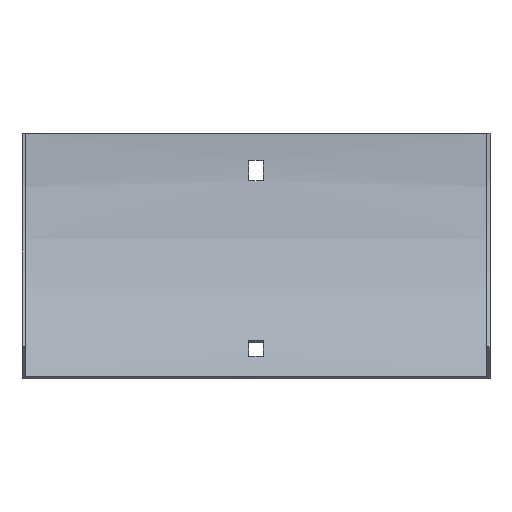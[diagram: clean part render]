
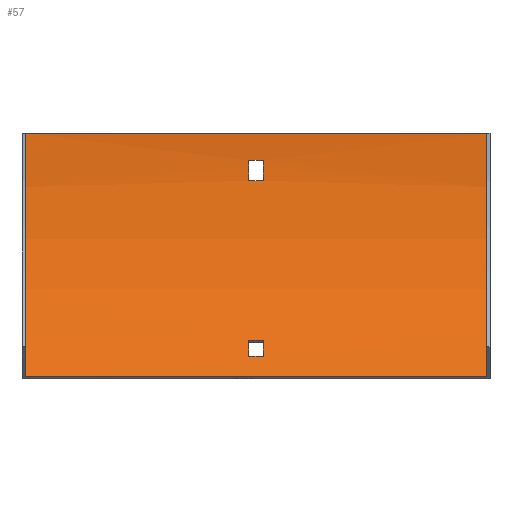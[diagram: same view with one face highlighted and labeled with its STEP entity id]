
A CAD part, front view. The second image highlights one B-rep face of the part: STEP entity #57.
In plain terms, the highlighted cylindrical face has radius 152 mm (diameter 304 mm), a partial arc.
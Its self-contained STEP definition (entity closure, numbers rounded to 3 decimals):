
#6 = VERTEX_POINT ( 'NONE', #529 ) ;
#13 = LINE ( 'NONE', #242, #338 ) ;
#26 = VERTEX_POINT ( 'NONE', #578 ) ;
#29 = ORIENTED_EDGE ( 'NONE', *, *, #539, .T. ) ;
#32 = VECTOR ( 'NONE', #397, 1000. ) ;
#34 = CARTESIAN_POINT ( 'NONE',  ( -3.25, -2.958, -21. ) ) ;
#35 = CARTESIAN_POINT ( 'NONE',  ( 102., -46.02, -107.48 ) ) ;
#36 = EDGE_CURVE ( 'NONE', #103, #602, #304, .T. ) ;
#57 = ADVANCED_FACE ( 'NONE', ( #591, #273, #80 ), #464, .F. ) ;
#61 = AXIS2_PLACEMENT_3D ( 'NONE', #192, #130, #308 ) ;
#65 = EDGE_CURVE ( 'NONE', #602, #473, #94, .T. ) ;
#80 = FACE_BOUND ( 'NONE', #420, .T. ) ;
#87 = DIRECTION ( 'NONE',  ( 0., 0., 1. ) ) ;
#88 = DIRECTION ( 'NONE',  ( 1., 0., 0. ) ) ;
#90 = CARTESIAN_POINT ( 'NONE',  ( 103.5, -153.5, 0. ) ) ;
#94 = CIRCLE ( 'NONE', #61, 152. ) ;
#103 = VERTEX_POINT ( 'NONE', #34 ) ;
#109 = VECTOR ( 'NONE', #121, 1000. ) ;
#112 = DIRECTION ( 'NONE',  ( -1., 0., 0. ) ) ;
#119 = VECTOR ( 'NONE', #256, 1000. ) ;
#121 = DIRECTION ( 'NONE',  ( -1., 0., 0. ) ) ;
#122 = CARTESIAN_POINT ( 'NONE',  ( 3.25, -1.974, -12. ) ) ;
#124 = EDGE_CURVE ( 'NONE', #460, #103, #556, .T. ) ;
#127 = AXIS2_PLACEMENT_3D ( 'NONE', #90, #135, #87 ) ;
#130 = DIRECTION ( 'NONE',  ( 1., 0., 0. ) ) ;
#135 = DIRECTION ( 'NONE',  ( -1., 0., 0. ) ) ;
#138 = CIRCLE ( 'NONE', #270, 152. ) ;
#139 = DIRECTION ( 'NONE',  ( 1., 0., 0. ) ) ;
#151 = CARTESIAN_POINT ( 'NONE',  ( -102., -153.5, 0. ) ) ;
#162 = EDGE_CURVE ( 'NONE', #416, #6, #386, .T. ) ;
#171 = AXIS2_PLACEMENT_3D ( 'NONE', #419, #112, #455 ) ;
#173 = DIRECTION ( 'NONE',  ( 0., 0., 1. ) ) ;
#183 = EDGE_LOOP ( 'NONE', ( #496, #194, #225, #551 ) ) ;
#185 = CIRCLE ( 'NONE', #286, 152. ) ;
#192 = CARTESIAN_POINT ( 'NONE',  ( 3.25, -153.5, 0. ) ) ;
#194 = ORIENTED_EDGE ( 'NONE', *, *, #258, .F. ) ;
#199 = ORIENTED_EDGE ( 'NONE', *, *, #162, .T. ) ;
#214 = ORIENTED_EDGE ( 'NONE', *, *, #406, .T. ) ;
#225 = ORIENTED_EDGE ( 'NONE', *, *, #65, .F. ) ;
#242 = CARTESIAN_POINT ( 'NONE',  ( 103.5, -37.87, -98.659 ) ) ;
#243 = AXIS2_PLACEMENT_3D ( 'NONE', #277, #88, #322 ) ;
#256 = DIRECTION ( 'NONE',  ( 1., 0., 0. ) ) ;
#258 = EDGE_CURVE ( 'NONE', #473, #460, #379, .T. ) ;
#260 = CARTESIAN_POINT ( 'NONE',  ( 102., -1.5, 0. ) ) ;
#265 = DIRECTION ( 'NONE',  ( 1., 0., 0. ) ) ;
#269 = VERTEX_POINT ( 'NONE', #369 ) ;
#270 = AXIS2_PLACEMENT_3D ( 'NONE', #151, #139, #316 ) ;
#273 = FACE_OUTER_BOUND ( 'NONE', #289, .T. ) ;
#277 = CARTESIAN_POINT ( 'NONE',  ( -3.25, -153.5, 0. ) ) ;
#279 = EDGE_CURVE ( 'NONE', #566, #6, #138, .T. ) ;
#283 = VERTEX_POINT ( 'NONE', #510 ) ;
#286 = AXIS2_PLACEMENT_3D ( 'NONE', #393, #586, #359 ) ;
#289 = EDGE_LOOP ( 'NONE', ( #441, #486, #29, #199 ) ) ;
#297 = DIRECTION ( 'NONE',  ( -1., 0., 0. ) ) ;
#300 = EDGE_CURVE ( 'NONE', #269, #26, #412, .T. ) ;
#301 = ORIENTED_EDGE ( 'NONE', *, *, #489, .T. ) ;
#304 = LINE ( 'NONE', #347, #32 ) ;
#308 = DIRECTION ( 'NONE',  ( 0., 0., -1. ) ) ;
#316 = DIRECTION ( 'NONE',  ( 0., 0., 1. ) ) ;
#322 = DIRECTION ( 'NONE',  ( 0., 0., -1. ) ) ;
#326 = ORIENTED_EDGE ( 'NONE', *, *, #547, .T. ) ;
#328 = CARTESIAN_POINT ( 'NONE',  ( 3.25, -2.958, -21. ) ) ;
#338 = VECTOR ( 'NONE', #297, 1000. ) ;
#347 = CARTESIAN_POINT ( 'NONE',  ( 103.5, -2.958, -21. ) ) ;
#350 = CARTESIAN_POINT ( 'NONE',  ( 103.5, -32.201, -91.6 ) ) ;
#359 = DIRECTION ( 'NONE',  ( 0., 0., 1. ) ) ;
#369 = CARTESIAN_POINT ( 'NONE',  ( -3.25, -37.87, -98.659 ) ) ;
#373 = ORIENTED_EDGE ( 'NONE', *, *, #300, .T. ) ;
#376 = DIRECTION ( 'NONE',  ( -1., 0., 0. ) ) ;
#379 = LINE ( 'NONE', #562, #403 ) ;
#386 = LINE ( 'NONE', #260, #109 ) ;
#393 = CARTESIAN_POINT ( 'NONE',  ( 3.25, -153.5, 0. ) ) ;
#396 = CARTESIAN_POINT ( 'NONE',  ( 3.25, -37.87, -98.659 ) ) ;
#397 = DIRECTION ( 'NONE',  ( 1., 0., 0. ) ) ;
#403 = VECTOR ( 'NONE', #376, 1000. ) ;
#406 = EDGE_CURVE ( 'NONE', #525, #269, #13, .T. ) ;
#407 = DIRECTION ( 'NONE',  ( -1., 0., 0. ) ) ;
#412 = CIRCLE ( 'NONE', #243, 152. ) ;
#416 = VERTEX_POINT ( 'NONE', #483 ) ;
#419 = CARTESIAN_POINT ( 'NONE',  ( -3.25, -153.5, 0. ) ) ;
#420 = EDGE_LOOP ( 'NONE', ( #214, #373, #326, #301 ) ) ;
#424 = AXIS2_PLACEMENT_3D ( 'NONE', #588, #265, #173 ) ;
#436 = CIRCLE ( 'NONE', #424, 152. ) ;
#441 = ORIENTED_EDGE ( 'NONE', *, *, #279, .F. ) ;
#442 = CARTESIAN_POINT ( 'NONE',  ( -3.25, -1.974, -12. ) ) ;
#455 = DIRECTION ( 'NONE',  ( 0., 0., 1. ) ) ;
#460 = VERTEX_POINT ( 'NONE', #442 ) ;
#464 = CYLINDRICAL_SURFACE ( 'NONE', #127, 152. ) ;
#473 = VERTEX_POINT ( 'NONE', #122 ) ;
#483 = CARTESIAN_POINT ( 'NONE',  ( 102., -1.5, 0. ) ) ;
#485 = LINE ( 'NONE', #350, #119 ) ;
#486 = ORIENTED_EDGE ( 'NONE', *, *, #595, .F. ) ;
#489 = EDGE_CURVE ( 'NONE', #548, #525, #185, .T. ) ;
#496 = ORIENTED_EDGE ( 'NONE', *, *, #124, .F. ) ;
#499 = CARTESIAN_POINT ( 'NONE',  ( -102., -46.02, -107.48 ) ) ;
#510 = CARTESIAN_POINT ( 'NONE',  ( 102., -46.02, -107.48 ) ) ;
#519 = VECTOR ( 'NONE', #407, 1000. ) ;
#525 = VERTEX_POINT ( 'NONE', #396 ) ;
#529 = CARTESIAN_POINT ( 'NONE',  ( -102., -1.5, 0. ) ) ;
#539 = EDGE_CURVE ( 'NONE', #283, #416, #436, .T. ) ;
#547 = EDGE_CURVE ( 'NONE', #26, #548, #485, .T. ) ;
#548 = VERTEX_POINT ( 'NONE', #549 ) ;
#549 = CARTESIAN_POINT ( 'NONE',  ( 3.25, -32.201, -91.6 ) ) ;
#551 = ORIENTED_EDGE ( 'NONE', *, *, #36, .F. ) ;
#556 = CIRCLE ( 'NONE', #171, 152. ) ;
#562 = CARTESIAN_POINT ( 'NONE',  ( 103.5, -1.974, -12. ) ) ;
#566 = VERTEX_POINT ( 'NONE', #499 ) ;
#578 = CARTESIAN_POINT ( 'NONE',  ( -3.25, -32.201, -91.6 ) ) ;
#586 = DIRECTION ( 'NONE',  ( -1., 0., 0. ) ) ;
#588 = CARTESIAN_POINT ( 'NONE',  ( 102., -153.5, 0. ) ) ;
#591 = FACE_BOUND ( 'NONE', #183, .T. ) ;
#595 = EDGE_CURVE ( 'NONE', #283, #566, #596, .T. ) ;
#596 = LINE ( 'NONE', #35, #519 ) ;
#602 = VERTEX_POINT ( 'NONE', #328 ) ;
